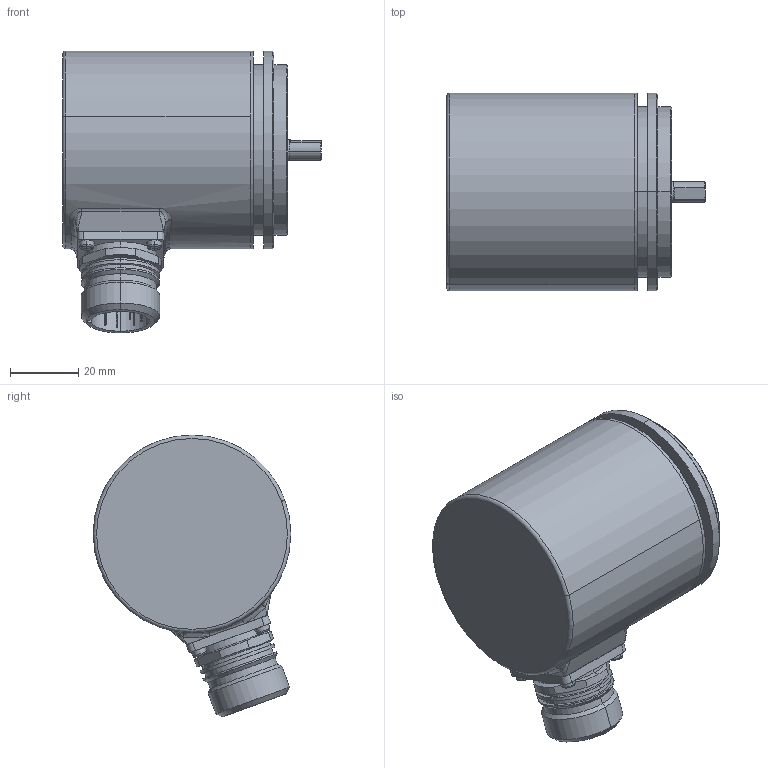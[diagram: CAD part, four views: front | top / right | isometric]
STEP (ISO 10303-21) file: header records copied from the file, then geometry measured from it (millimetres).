
FILE_DESCRIPTION (( 'STEP AP214' ), '1' );
FILE_NAME ('5803.21X5.XXXX.STEP', '2011-04-15T08:53:17', ( 'admin' ), ( 'Fritz Kübler GmbH' ), 'SwSTEP 2.0', 'SolidWorks 2009', '' );
FILE_SCHEMA (( 'AUTOMOTIVE_DESIGN' ));
Length unit declared in the file: millimetre
Products named in the file (1): 5803.21X5.XXXX
Bounding box: 75.95 x 58 x 82.69 mm (x, y, z)
Surface area: 27092.6 mm2 (no closed solid volume)
Topology: 0 solids, 35 shells, 302 faces, 810 edges, 529 vertices
Faces by surface type: cylinder 115, plane 74, torus 42, cone 33, sphere 24, bspline 14
Entity records: 14704 total; most frequent: CARTESIAN_POINT 3702, DIRECTION 1805, ORIENTED_EDGE 1366, EDGE_CURVE 786, AXIS2_PLACEMENT_3D 770, VERTEX_POINT 529, CIRCLE 481, EDGE_LOOP 360
